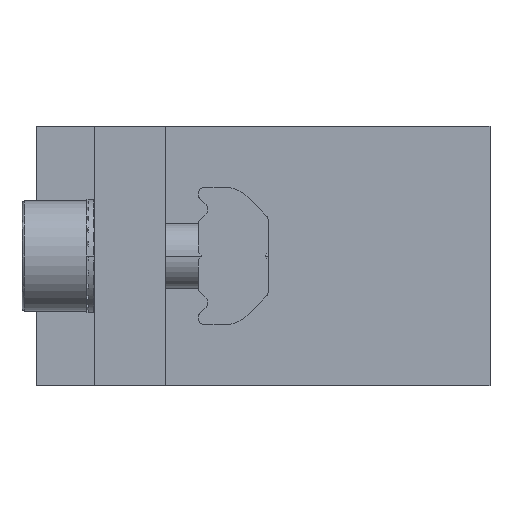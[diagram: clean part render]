
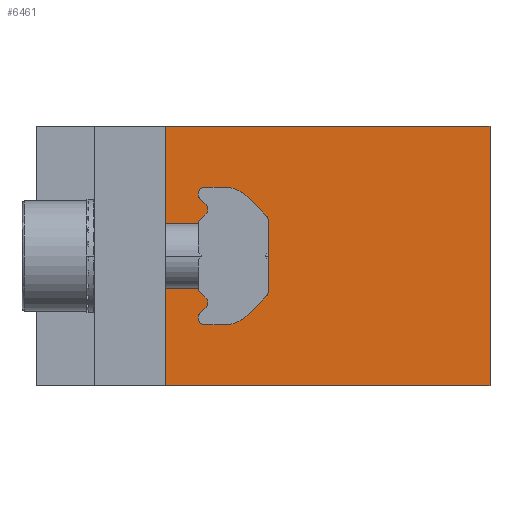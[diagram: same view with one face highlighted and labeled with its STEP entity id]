
A CAD part, left-side view. The second image highlights one B-rep face of the part: STEP entity #6461.
In plain terms, the highlighted planar face has unit normal (-1, 0, 0).
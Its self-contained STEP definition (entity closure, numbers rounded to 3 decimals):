
#723 = EDGE_CURVE ( 'NONE', #9307, #4823, #7522, .T. ) ;
#1056 = DIRECTION ( 'NONE',  ( 0., 0., -1. ) ) ;
#1213 = ORIENTED_EDGE ( 'NONE', *, *, #9707, .T. ) ;
#1641 = DIRECTION ( 'NONE',  ( 1., 0., 0. ) ) ;
#1707 = ORIENTED_EDGE ( 'NONE', *, *, #8592, .F. ) ;
#2300 = CARTESIAN_POINT ( 'NONE',  ( -67.985, -16.963, 36.829 ) ) ;
#2635 = PLANE ( 'NONE',  #8519 ) ;
#2738 = CARTESIAN_POINT ( 'NONE',  ( -67.985, 8.037, 46.829 ) ) ;
#3897 = LINE ( 'NONE', #2300, #9355 ) ;
#4630 = VECTOR ( 'NONE', #1056, 1000. ) ;
#4823 = VERTEX_POINT ( 'NONE', #12080 ) ;
#5312 = EDGE_CURVE ( 'NONE', #6012, #4823, #13938, .T. ) ;
#5411 = DIRECTION ( 'NONE',  ( 0., -1., 0. ) ) ;
#5548 = CARTESIAN_POINT ( 'NONE',  ( -67.985, 0.537, 26.829 ) ) ;
#5716 = VECTOR ( 'NONE', #13047, 1000. ) ;
#6012 = VERTEX_POINT ( 'NONE', #9295 ) ;
#6404 = CARTESIAN_POINT ( 'NONE',  ( -67.985, 8.037, 36.829 ) ) ;
#6461 = ADVANCED_FACE ( 'NONE', ( #12966 ), #2635, .F. ) ;
#6713 = ORIENTED_EDGE ( 'NONE', *, *, #723, .T. ) ;
#7522 = LINE ( 'NONE', #6404, #4630 ) ;
#8021 = VECTOR ( 'NONE', #5411, 1000. ) ;
#8200 = CARTESIAN_POINT ( 'NONE',  ( -67.985, -16.963, 26.829 ) ) ;
#8317 = EDGE_LOOP ( 'NONE', ( #1707, #6713, #8762, #1213 ) ) ;
#8519 = AXIS2_PLACEMENT_3D ( 'NONE', #8200, #1641, #9286 ) ;
#8592 = EDGE_CURVE ( 'NONE', #9307, #9396, #10850, .T. ) ;
#8762 = ORIENTED_EDGE ( 'NONE', *, *, #5312, .F. ) ;
#9286 = DIRECTION ( 'NONE',  ( 0., 1., 0. ) ) ;
#9295 = CARTESIAN_POINT ( 'NONE',  ( -67.985, -16.963, 26.829 ) ) ;
#9307 = VERTEX_POINT ( 'NONE', #2738 ) ;
#9355 = VECTOR ( 'NONE', #13082, 1000. ) ;
#9396 = VERTEX_POINT ( 'NONE', #12595 ) ;
#9707 = EDGE_CURVE ( 'NONE', #6012, #9396, #3897, .T. ) ;
#9729 = CARTESIAN_POINT ( 'NONE',  ( -67.985, -4.463, 46.829 ) ) ;
#10850 = LINE ( 'NONE', #9729, #8021 ) ;
#12080 = CARTESIAN_POINT ( 'NONE',  ( -67.985, 8.037, 26.829 ) ) ;
#12595 = CARTESIAN_POINT ( 'NONE',  ( -67.985, -16.963, 46.829 ) ) ;
#12966 = FACE_OUTER_BOUND ( 'NONE', #8317, .T. ) ;
#13047 = DIRECTION ( 'NONE',  ( 0., 1., 0. ) ) ;
#13082 = DIRECTION ( 'NONE',  ( 0., 0., 1. ) ) ;
#13938 = LINE ( 'NONE', #5548, #5716 ) ;
